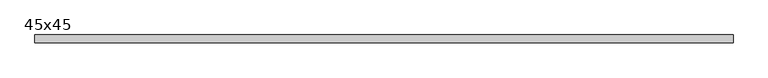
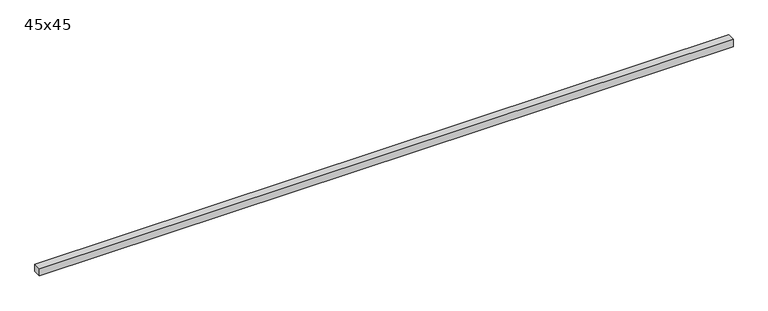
"""IFC4 building model written with IfcOpenShell, lengths in millimetres: beam geometry, Poutre - Bois d'oeuvre : 45x45."""

from ifc_helpers import new_model, si_unit, frame, origin, place, context, project, spatial, polyline, outline, extrude, source, transform, mapped, element, save


def beam_45x45_aacaedf5(model_context):
    return source(origin(), model_context, "Body", "SweptSolid", [
        extrude(outline(polyline([(2020.0, 22.5), (2020.0, -22.5), (-2020.0, -22.5), (-2020.0, 22.5), (2020.0, 22.5)])), frame((0.0, 0.0, -22.5), z_axis=(0.0, 0.0, 1.0), x_axis=(1.0, 0.0, 0.0)), (0.0, 0.0, 1.0), 45.0),
    ])


if __name__ == "__main__":
    model = new_model("IFC4")
    model_context = context("Model", 3, world=origin())
    ifc_project = project(units=[si_unit("LENGTHUNIT", "METRE", prefix="MILLI")], contexts=[model_context])
    site = spatial("IfcSite", under=ifc_project)
    building = spatial("IfcBuilding", under=site)
    placement = place(None, origin())
    beam_45x45_shape = beam_45x45_aacaedf5(model_context)
    element("IfcBeam", 1, ObjectType="Poutre - Bois d'oeuvre : 45x45", at=placement, inside=building, context=model_context, shape_type="MappedRepresentation", body=[
        mapped(beam_45x45_shape, transform((0.0, 0.0, 0.0), x_axis=(1.0, 0.0, 0.0), y_axis=(0.0, 1.0, 0.0), z_axis=(0.0, 0.0, 1.0))),
    ])
    save(model, "model.ifc")
